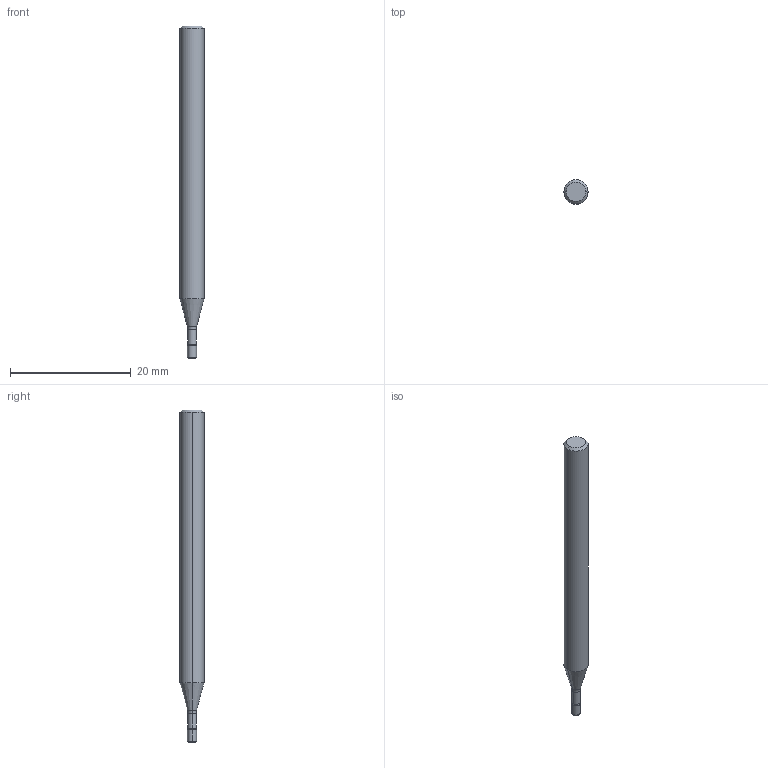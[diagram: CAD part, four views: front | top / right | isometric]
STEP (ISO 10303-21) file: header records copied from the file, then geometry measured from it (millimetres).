
FILE_DESCRIPTION (( 'STEP AP214' ), '1' );
FILE_NAME ('560.161.75_3D-model.step', '2022-02-18T16:40:03', ( '' ), ( '' ), 'SwSTEP 2.0', 'SolidWorks 2020', '' );
FILE_SCHEMA (( 'AUTOMOTIVE_DESIGN' ));
Length unit declared in the file: millimetre
Products named in the file (3): 560.161.75_3D-model; NOCUT-3D^Baugr163; CUT-3D^Baugr163
Assembly tree (2 placements, depth 2):
  560.161.75_3D-model
    CUT-3D^Baugr163
    NOCUT-3D^Baugr163
Bounding box: 4 x 4 x 55 mm (x, y, z)
Volume: 604.5 mm3; surface area: 647 mm2
Topology: 2 solids, 2 shells, 20 faces, 36 edges, 20 vertices
Faces by surface type: cylinder 6, cone 6, torus 4, plane 4
Entity records: 610 total; most frequent: DIRECTION 116, CARTESIAN_POINT 84, ORIENTED_EDGE 72, AXIS2_PLACEMENT_3D 52, EDGE_CURVE 36, CIRCLE 24, FACE_OUTER_BOUND 20, EDGE_LOOP 20
